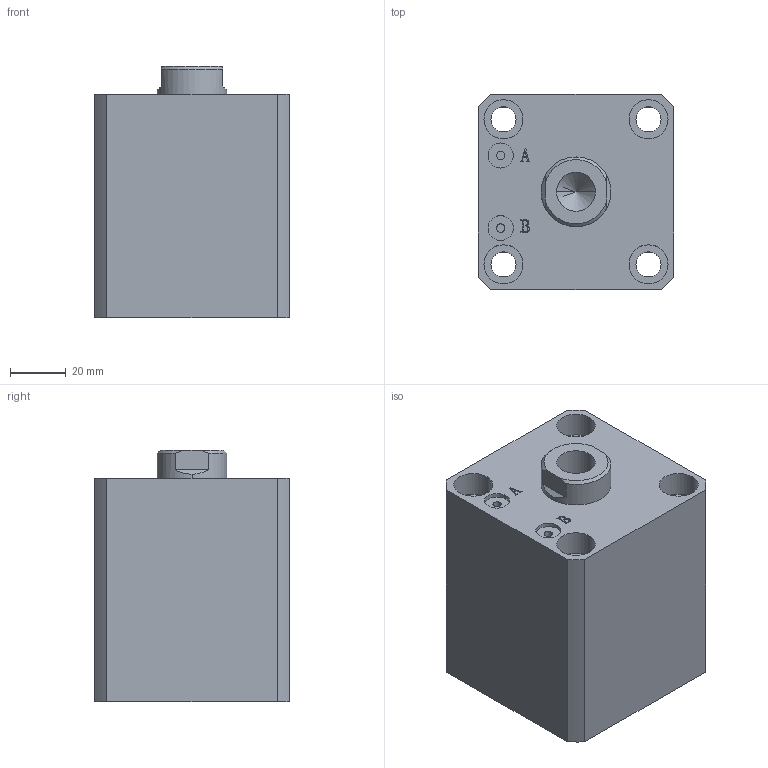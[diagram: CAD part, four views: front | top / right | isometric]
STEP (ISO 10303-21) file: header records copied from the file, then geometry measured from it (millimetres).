
FILE_DESCRIPTION (( 'STEP AP203' ), '1' );
FILE_NAME ('HTB-SDMA40-25N.STEP', '2019-10-07T11:51:28', ( '微软用户' ), ( '微软中国' ), 'SwSTEP 2.0', 'SolidWorks 2012', '' );
FILE_SCHEMA (( 'CONFIG_CONTROL_DESIGN' ));
Length unit declared in the file: millimetre
Products named in the file (3): HTB-SDMA40-25N活塞杆; HTB-SDMA40-25掛极; HTB-SDMA40-25N
Assembly tree (2 placements, depth 2):
  HTB-SDMA40-25N
    HTB-SDMA40-25掛极
    HTB-SDMA40-25N活塞杆
Bounding box: 70 x 70 x 90 mm (x, y, z)
Volume: 343538.6 mm3; surface area: 61045 mm2
Topology: 2 solids, 2 shells, 137 faces, 331 edges, 217 vertices
Faces by surface type: plane 65, cylinder 46, bspline 16, torus 6, cone 4
Entity records: 5074 total; most frequent: CARTESIAN_POINT 1580, ORIENTED_EDGE 658, DIRECTION 647, EDGE_CURVE 329, AXIS2_PLACEMENT_3D 232, VERTEX_POINT 217, VECTOR 183, LINE 183
